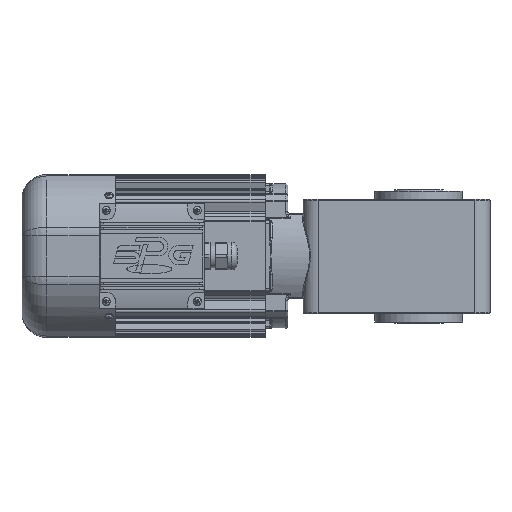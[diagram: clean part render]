
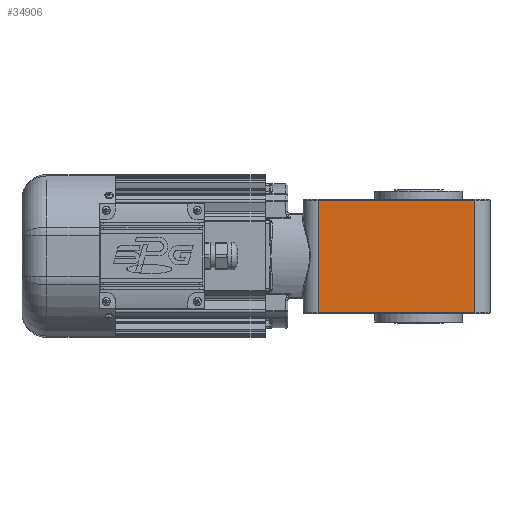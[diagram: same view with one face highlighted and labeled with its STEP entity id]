
A CAD part, front view. The second image highlights one B-rep face of the part: STEP entity #34906.
In plain terms, the highlighted planar face has unit normal (0, -1, 0).
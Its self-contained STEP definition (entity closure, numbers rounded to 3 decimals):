
#1000=LINE('',#55715,#3511);
#1223=LINE('',#58998,#3734);
#1224=LINE('',#59000,#3735);
#1225=LINE('',#59001,#3736);
#3511=VECTOR('',#41944,11.);
#3734=VECTOR('',#43195,11.);
#3735=VECTOR('',#43198,134.);
#3736=VECTOR('',#43199,134.);
#7356=FACE_OUTER_BOUND('',#9430,.T.);
#9430=EDGE_LOOP('',(#24152,#24153,#24154,#24155));
#13828=VERTEX_POINT('',#55711);
#13830=VERTEX_POINT('',#55714);
#14181=VERTEX_POINT('',#58994);
#14182=VERTEX_POINT('',#58996);
#17267=EDGE_CURVE('',#13828,#13830,#1000,.T.);
#17901=EDGE_CURVE('',#14181,#14182,#1223,.T.);
#17902=EDGE_CURVE('',#14181,#13828,#1224,.T.);
#17903=EDGE_CURVE('',#13830,#14182,#1225,.T.);
#24152=ORIENTED_EDGE('',*,*,#17902,.F.);
#24153=ORIENTED_EDGE('',*,*,#17901,.T.);
#24154=ORIENTED_EDGE('',*,*,#17903,.F.);
#24155=ORIENTED_EDGE('',*,*,#17267,.F.);
#32082=PLANE('',#37480);
#34906=ADVANCED_FACE('',(#7356),#32082,.T.);
#37480=AXIS2_PLACEMENT_3D('',#58999,#43196,#43197);
#41944=DIRECTION('',(0.,0.,1.));
#43195=DIRECTION('',(0.,0.,1.));
#43196=DIRECTION('center_axis',(0.,-1.,0.));
#43197=DIRECTION('ref_axis',(0.,0.,-1.));
#43198=DIRECTION('',(-1.,0.,0.));
#43199=DIRECTION('',(1.,0.,0.));
#55711=CARTESIAN_POINT('',(0.368,-77.169,-48.502));
#55714=CARTESIAN_POINT('',(0.368,-77.169,47.498));
#55715=CARTESIAN_POINT('',(0.368,-77.169,36.498));
#58994=CARTESIAN_POINT('',(134.368,-77.169,-48.502));
#58996=CARTESIAN_POINT('',(134.368,-77.169,47.498));
#58998=CARTESIAN_POINT('',(134.368,-77.169,36.498));
#58999=CARTESIAN_POINT('Origin',(134.368,-77.169,37.998));
#59000=CARTESIAN_POINT('',(134.368,-77.169,-48.502));
#59001=CARTESIAN_POINT('',(0.368,-77.169,47.498));
